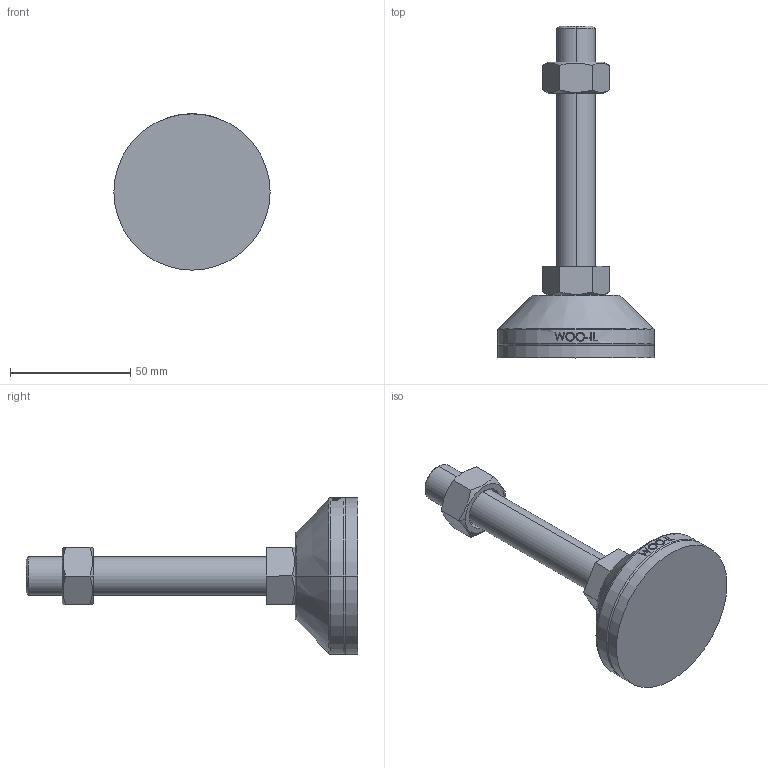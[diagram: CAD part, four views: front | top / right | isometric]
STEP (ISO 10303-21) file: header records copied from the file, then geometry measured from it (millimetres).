
FILE_DESCRIPTION (( 'STEP AP214' ), '1' );
FILE_NAME ('NHNR65-M16-100 (Æò).step', '2021-01-25T06:19:23', ( '' ), ( '' ), 'SwSTEP 2.0', 'SolidWorks 2019', '' );
FILE_SCHEMA (( 'AUTOMOTIVE_DESIGN' ));
Length unit declared in the file: millimetre
Products named in the file (2): NHNR65-M16-100 (ゎ)
Bounding box: 65 x 138 x 65 mm (x, y, z)
Volume: 98341.8 mm3; surface area: 25660.1 mm2
Topology: 4 solids, 4 shells, 100 faces, 229 edges, 146 vertices
Faces by surface type: plane 48, cylinder 16, bspline 16, cone 14, torus 6
Entity records: 4231 total; most frequent: CARTESIAN_POINT 2025, ORIENTED_EDGE 458, DIRECTION 401, EDGE_CURVE 229, AXIS2_PLACEMENT_3D 152, VERTEX_POINT 146, EDGE_LOOP 111, ADVANCED_FACE 100
